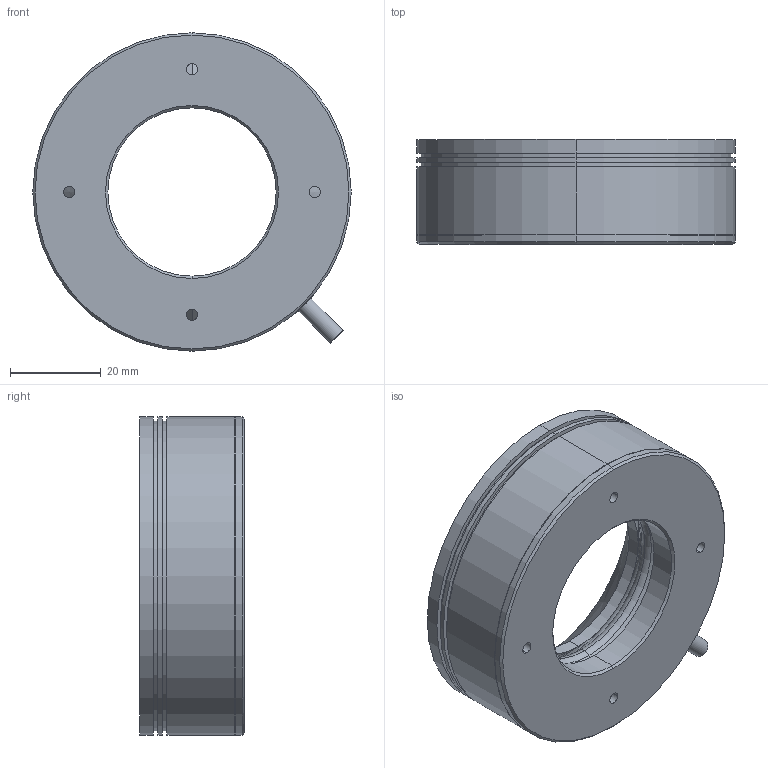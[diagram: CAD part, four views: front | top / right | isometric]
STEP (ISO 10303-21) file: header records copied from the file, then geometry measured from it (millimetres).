
FILE_DESCRIPTION (( 'STEP AP203' ), '1' );
FILE_NAME ('RI7045-W.STEP', '2021-10-08T07:13:36', ( 'Windows 蚚誧' ), ( 'Microsoft' ), 'SwSTEP 2.0', 'SolidWorks 2016', '' );
FILE_SCHEMA (( 'CONFIG_CONTROL_DESIGN' ));
Length unit declared in the file: millimetre
Products named in the file (1): RI7045-W
Bounding box: 70 x 23 x 70 mm (x, y, z)
Volume: 38783.4 mm3; surface area: 35009.8 mm2
Topology: 3 solids, 3 shells, 102 faces, 224 edges, 132 vertices
Faces by surface type: cone 36, cylinder 36, torus 16, plane 14
Entity records: 3051 total; most frequent: CARTESIAN_POINT 633, DIRECTION 550, ORIENTED_EDGE 448, AXIS2_PLACEMENT_3D 239, EDGE_CURVE 224, CIRCLE 136, VERTEX_POINT 132, EDGE_LOOP 120
